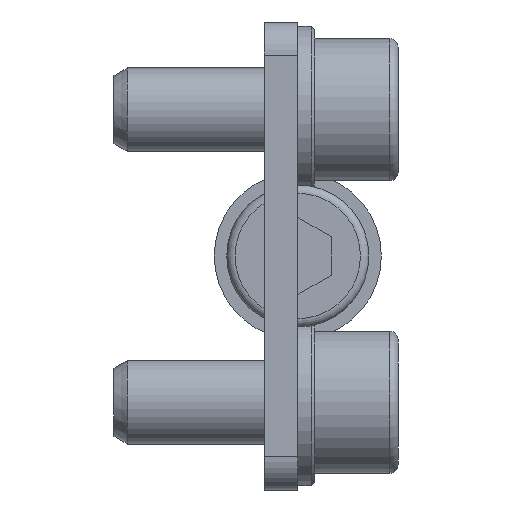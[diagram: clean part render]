
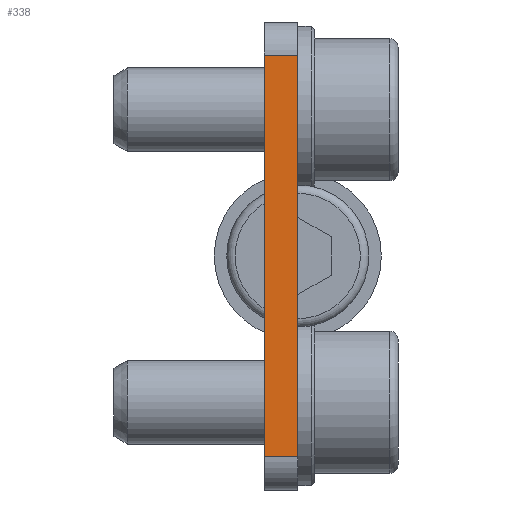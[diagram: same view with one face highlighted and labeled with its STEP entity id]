
A CAD part, left-side view. The second image highlights one B-rep face of the part: STEP entity #338.
In plain terms, the highlighted planar face has unit normal (-1, 0, 0).
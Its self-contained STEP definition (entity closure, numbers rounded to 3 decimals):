
#338 = ADVANCED_FACE( '', ( #524 ), #525, .F. );
#524 = FACE_OUTER_BOUND( '', #644, .T. );
#525 = PLANE( '', #645 );
#644 = EDGE_LOOP( '', ( #845, #846, #847, #848 ) );
#645 = AXIS2_PLACEMENT_3D( '', #849, #850, #851 );
#845 = ORIENTED_EDGE( '', *, *, #1106, .F. );
#846 = ORIENTED_EDGE( '', *, *, #1122, .T. );
#847 = ORIENTED_EDGE( '', *, *, #1138, .T. );
#848 = ORIENTED_EDGE( '', *, *, #1151, .T. );
#849 = CARTESIAN_POINT( '', ( -85., 2., -14. ) );
#850 = DIRECTION( '', ( 1., 0., 0. ) );
#851 = DIRECTION( '', ( 0., 0., -1. ) );
#1106 = EDGE_CURVE( '', #1247, #1249, #1250, .T. );
#1122 = EDGE_CURVE( '', #1247, #1278, #1280, .T. );
#1138 = EDGE_CURVE( '', #1278, #1309, #1310, .T. );
#1151 = EDGE_CURVE( '', #1309, #1249, #1333, .F. );
#1247 = VERTEX_POINT( '', #1380 );
#1249 = VERTEX_POINT( '', #1382 );
#1250 = LINE( '', #1383, #1384 );
#1278 = VERTEX_POINT( '', #1419 );
#1280 = LINE( '', #1421, #1422 );
#1309 = VERTEX_POINT( '', #1459 );
#1310 = LINE( '', #1460, #1461 );
#1333 = LINE( '', #1490, #1491 );
#1380 = CARTESIAN_POINT( '', ( -85., 2., -12. ) );
#1382 = CARTESIAN_POINT( '', ( -85., 2., 12. ) );
#1383 = CARTESIAN_POINT( '', ( -85., 2., -14. ) );
#1384 = VECTOR( '', #1554, 1000. );
#1419 = CARTESIAN_POINT( '', ( -85., 0., -12. ) );
#1421 = CARTESIAN_POINT( '', ( -85., 2., -12. ) );
#1422 = VECTOR( '', #1586, 1000. );
#1459 = CARTESIAN_POINT( '', ( -85., 0., 12. ) );
#1460 = CARTESIAN_POINT( '', ( -85., 0., -14. ) );
#1461 = VECTOR( '', #1616, 1000. );
#1490 = CARTESIAN_POINT( '', ( -85., 2., 12. ) );
#1491 = VECTOR( '', #1641, 1000. );
#1554 = DIRECTION( '', ( 0., 0., 1. ) );
#1586 = DIRECTION( '', ( 0., -1., 0. ) );
#1616 = DIRECTION( '', ( 0., 0., 1. ) );
#1641 = DIRECTION( '', ( 0., -1., 0. ) );
